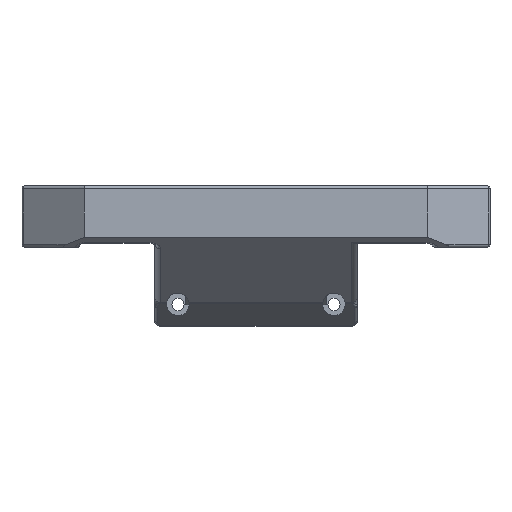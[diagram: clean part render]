
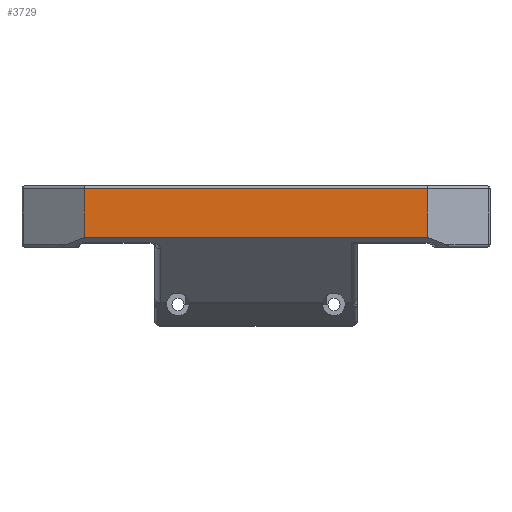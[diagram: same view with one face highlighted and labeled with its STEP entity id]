
A CAD part, top view. The second image highlights one B-rep face of the part: STEP entity #3729.
In plain terms, the highlighted planar face has unit normal (0, 0, 1).
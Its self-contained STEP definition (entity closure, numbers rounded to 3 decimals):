
#208 = CARTESIAN_POINT ( 'NONE',  ( -55., 36.5, 65. ) ) ;
#286 = CARTESIAN_POINT ( 'NONE',  ( 55., 20.95, 65. ) ) ;
#582 = DIRECTION ( 'NONE',  ( -1., 0., 0. ) ) ;
#691 = EDGE_CURVE ( 'NONE', #1430, #2164, #1817, .T. ) ;
#796 = CARTESIAN_POINT ( 'NONE',  ( 55., 36.5, 65. ) ) ;
#819 = DIRECTION ( 'NONE',  ( -1., 0., 0. ) ) ;
#843 = EDGE_LOOP ( 'NONE', ( #3790, #2697, #1172, #3912 ) ) ;
#902 = CARTESIAN_POINT ( 'NONE',  ( 55., 20.95, 65. ) ) ;
#1013 = VECTOR ( 'NONE', #582, 1000. ) ;
#1059 = AXIS2_PLACEMENT_3D ( 'NONE', #2991, #3808, #819 ) ;
#1135 = DIRECTION ( 'NONE',  ( 0., -1., 0. ) ) ;
#1172 = ORIENTED_EDGE ( 'NONE', *, *, #2348, .T. ) ;
#1207 = EDGE_CURVE ( 'NONE', #3686, #1430, #3074, .T. ) ;
#1387 = EDGE_CURVE ( 'NONE', #3686, #1449, #2040, .T. ) ;
#1430 = VERTEX_POINT ( 'NONE', #902 ) ;
#1449 = VERTEX_POINT ( 'NONE', #208 ) ;
#1475 = DIRECTION ( 'NONE',  ( -1., 0., 0. ) ) ;
#1633 = CARTESIAN_POINT ( 'NONE',  ( -55., 20.95, 65. ) ) ;
#1726 = LINE ( 'NONE', #3847, #1954 ) ;
#1817 = LINE ( 'NONE', #286, #2967 ) ;
#1862 = CARTESIAN_POINT ( 'NONE',  ( 55., 20.95, 65. ) ) ;
#1954 = VECTOR ( 'NONE', #1135, 1000. ) ;
#2040 = LINE ( 'NONE', #2705, #1013 ) ;
#2164 = VERTEX_POINT ( 'NONE', #1633 ) ;
#2348 = EDGE_CURVE ( 'NONE', #1449, #2164, #1726, .T. ) ;
#2670 = FACE_OUTER_BOUND ( 'NONE', #843, .T. ) ;
#2697 = ORIENTED_EDGE ( 'NONE', *, *, #1387, .T. ) ;
#2705 = CARTESIAN_POINT ( 'NONE',  ( 55., 36.5, 65. ) ) ;
#2967 = VECTOR ( 'NONE', #1475, 1000. ) ;
#2991 = CARTESIAN_POINT ( 'NONE',  ( 55., 20.95, 65. ) ) ;
#3074 = LINE ( 'NONE', #1862, #3240 ) ;
#3240 = VECTOR ( 'NONE', #3677, 1000. ) ;
#3524 = PLANE ( 'NONE',  #1059 ) ;
#3677 = DIRECTION ( 'NONE',  ( 0., -1., 0. ) ) ;
#3686 = VERTEX_POINT ( 'NONE', #796 ) ;
#3729 = ADVANCED_FACE ( 'NONE', ( #2670 ), #3524, .F. ) ;
#3790 = ORIENTED_EDGE ( 'NONE', *, *, #1207, .F. ) ;
#3808 = DIRECTION ( 'NONE',  ( 0., 0., -1. ) ) ;
#3847 = CARTESIAN_POINT ( 'NONE',  ( -55., 20.95, 65. ) ) ;
#3912 = ORIENTED_EDGE ( 'NONE', *, *, #691, .F. ) ;
